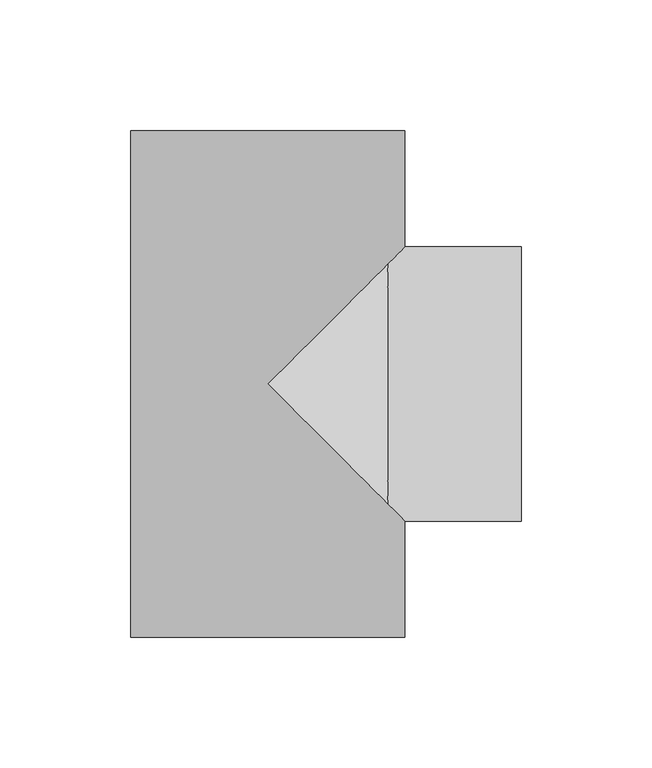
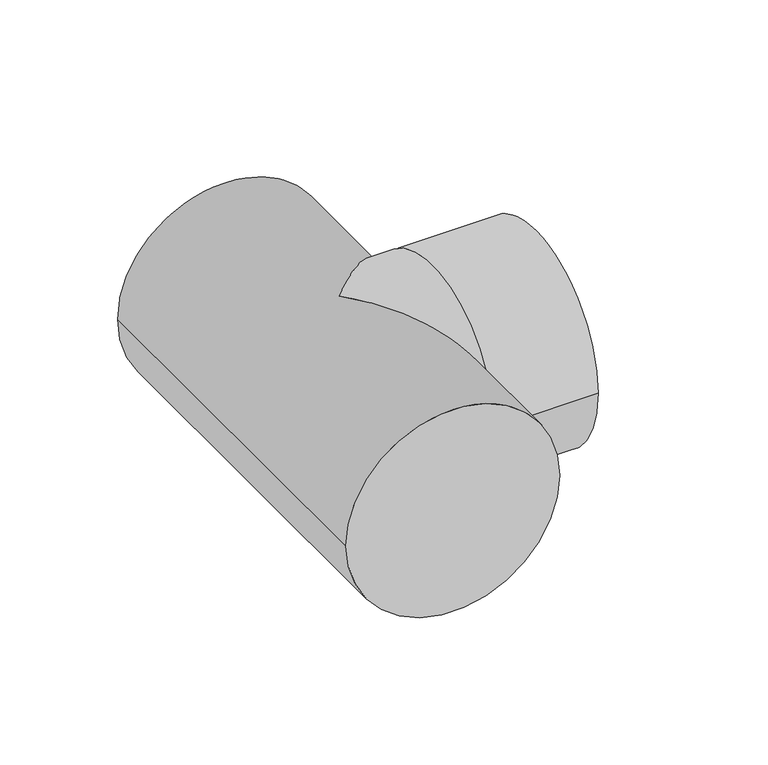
"""IFC4 building model written with IfcOpenShell, lengths in millimetres: pipe fitting geometry, 01101004 : Tes 90º."""

from ifc_helpers import new_model, si_unit, frame, origin, place, context, project, spatial, circle_curve, ellipse_curve, source, transform, mapped, element, save
from ifc_brep_helpers import plane_surface, cylinder_surface, advanced_brep


def pipe_fitting_9efebb89(model_context):
    return source(origin(), model_context, "Body", "AdvancedBrep", [
        advanced_brep(
        [(-52.5, 97.0, 0.0), (52.5, 97.0, 0.0), (-52.5, -97.0, 0.0), (52.5, -97.0, 0.0), (52.5, -52.5, 0.0), (46.0, -46.0, 25.3031619), (0.0, 0.0, 52.5), (46.0, 46.0, 25.3031619), (52.5, 52.5, 0.0), (46.0, 46.0, -25.3031619), (0.0, 0.0, -52.5), (46.0, -46.0, -25.3031619), (97.0, 52.5, 0.0), (97.0, -52.5, 0.0)],
        [
            (0, 1, circle_curve(frame((0.0, 97.0, 0.0), z_axis=(0.0, 1.0, 0.0), x_axis=(1.0, 0.0, 0.0)), 52.5)),
            (1, 0, circle_curve(frame((0.0, 97.0, 0.0), z_axis=(0.0, 1.0, 0.0), x_axis=(1.0, 0.0, 0.0)), 52.5)),
            (2, 3, circle_curve(frame((0.0, -97.0, 0.0), z_axis=(0.0, -1.0, 0.0), x_axis=(1.0, 0.0, 0.0)), 52.5)),
            (3, 2, circle_curve(frame((0.0, -97.0, 0.0), z_axis=(0.0, -1.0, 0.0), x_axis=(1.0, 0.0, 0.0)), 52.5)),
            (0, 2),
            (3, 4),
            (4, 5, ellipse_curve(frame((0.0, 0.0, 0.0), z_axis=(-0.7071067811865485, -0.7071067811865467, 0.0), x_axis=(-0.7071067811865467, 0.7071067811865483, 0.0)), 74.246212, 52.5)),
            (5, 6, ellipse_curve(frame((0.0, 0.0, 0.0), z_axis=(-0.7071067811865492, -0.7071067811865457, 0.0), x_axis=(-0.7071067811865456, 0.7071067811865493, 0.0)), 74.246212, 52.5)),
            (6, 7, ellipse_curve(frame((0.0, 0.0, 0.0), z_axis=(-0.7071067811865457, 0.7071067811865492, 0.0), x_axis=(0.7071067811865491, 0.7071067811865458, 0.0)), 74.246212, 52.5)),
            (7, 8, ellipse_curve(frame((0.0, 0.0, 0.0), z_axis=(-0.7071067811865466, 0.7071067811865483, 0.0), x_axis=(0.7071067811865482, 0.7071067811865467, 0.0)), 74.246212, 52.5)),
            (8, 1),
            (8, 9, ellipse_curve(frame((0.0, 0.0, 0.0), z_axis=(-0.7071067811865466, 0.7071067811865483, 0.0), x_axis=(0.7071067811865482, 0.7071067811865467, 0.0)), 74.246212, 52.5)),
            (9, 10, ellipse_curve(frame((0.0, 0.0, 0.0), z_axis=(-0.7071067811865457, 0.7071067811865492, 0.0), x_axis=(0.7071067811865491, 0.7071067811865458, 0.0)), 74.246212, 52.5)),
            (10, 11, ellipse_curve(frame((0.0, 0.0, 0.0), z_axis=(-0.7071067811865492, -0.7071067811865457, 0.0), x_axis=(-0.7071067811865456, 0.7071067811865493, 0.0)), 74.246212, 52.5)),
            (11, 4, ellipse_curve(frame((0.0, 0.0, 0.0), z_axis=(-0.7071067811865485, -0.7071067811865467, 0.0), x_axis=(-0.7071067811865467, 0.7071067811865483, 0.0)), 74.246212, 52.5)),
            (12, 13, circle_curve(frame((97.0, 0.0, 0.0), z_axis=(1.0, 0.0, 0.0), x_axis=(0.0, -1.0, 0.0)), 52.5)),
            (13, 12, circle_curve(frame((97.0, 0.0, 0.0), z_axis=(1.0, 0.0, 0.0), x_axis=(0.0, -1.0, 0.0)), 52.5)),
            (5, 7, circle_curve(frame((46.0, 0.0, 0.0), z_axis=(-1.0, 0.0, 0.0), x_axis=(0.0, -1.0, 0.0)), 52.5)),
            (9, 11, circle_curve(frame((46.0, 0.0, 0.0), z_axis=(-1.0, 0.0, 0.0), x_axis=(0.0, -1.0, 0.0)), 52.5)),
            (12, 8),
            (4, 13),
        ],
        [
            plane_surface(frame((0.0, 97.0, 0.0), z_axis=(0.0, 1.0, 0.0), x_axis=(0.0, 0.0, 1.0))),
            plane_surface(frame((0.0, -97.0, 0.0), z_axis=(0.0, -1.0, 0.0), x_axis=(0.0, 0.0, 1.0))),
            cylinder_surface(frame((0.0, 97.0, 0.0), z_axis=(0.0, 1.0, 0.0), x_axis=(1.0, 0.0, 0.0)), 52.5),
            plane_surface(frame((97.0, 0.0, 0.0), z_axis=(1.0, 0.0, 0.0), x_axis=(0.0, 0.0, 1.0))),
            cylinder_surface(frame((46.0, 0.0, 0.0), z_axis=(1.0, 0.0, 0.0), x_axis=(0.0, -1.0, 0.0)), 52.5),
            cylinder_surface(frame((97.0, 0.0, 0.0), z_axis=(1.0, 0.0, 0.0), x_axis=(0.0, -1.0, 0.0)), 52.5),
        ],
        [
            (0, [[1, 2]]),
            (1, [[3, 4]]),
            (2, [[-1, 5, -4, 6, 7, 8, 9, 10, 11]]),
            (2, [[-2, -11, 12, 13, 14, 15, -6, -3, -5]]),
            (3, [[16, 17]]),
            (4, [[18, -9, -8]]),
            (4, [[19, -14, -13]]),
            (5, [[-16, 20, -10, -18, -7, 21]]),
            (5, [[-17, -21, -15, -19, -12, -20]]),
        ],
    ),
    ])


if __name__ == "__main__":
    model = new_model("IFC4")
    model_context = context("Model", 3, world=origin())
    ifc_project = project(units=[si_unit("LENGTHUNIT", "METRE", prefix="MILLI")], contexts=[model_context])
    site = spatial("IfcSite", under=ifc_project)
    building = spatial("IfcBuilding", under=site)
    placement = place(None, origin())
    pipe_fitting_shape = pipe_fitting_9efebb89(model_context)
    element("IfcPipeFitting", 1, ObjectType="01101004 : Tes 90º", at=placement, inside=building, context=model_context, shape_type="MappedRepresentation", body=[
        mapped(pipe_fitting_shape, transform((0.0, 0.0, 0.0), x_axis=(1.0, 0.0, 0.0), y_axis=(0.0, 1.0, 0.0), z_axis=(0.0, 0.0, 1.0))),
    ])
    save(model, "model.ifc")
